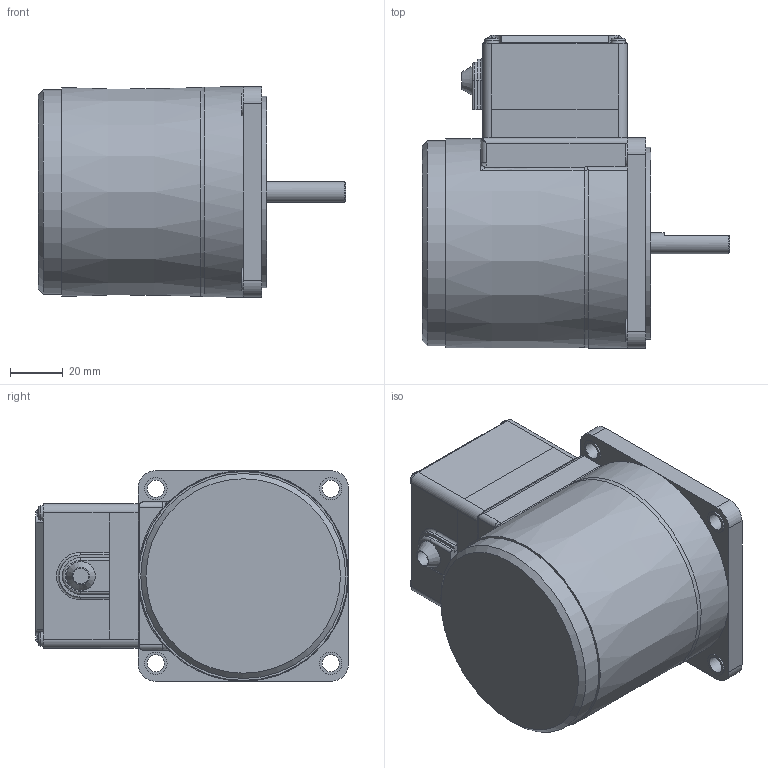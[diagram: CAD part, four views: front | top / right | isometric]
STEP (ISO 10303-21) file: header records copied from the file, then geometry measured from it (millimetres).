
FILE_DESCRIPTION(/* description */ (''),/* implementation_level */ '2;1');
FILE_NAME(/* name */ 'E:\도면작업\2016\0704) 미주향 SG 도면\3D MOTOR\TERMINAL BOX TYPE\INDUCTION TERMINAL BOX\SG8I25D_-T1.stp',/* time_stamp */ '2017-01-23T18:09:37+09:00',/* author */ ('jy-jung'),/* organization */ (''),/* preprocessor_version */ 'ST-DEVELOPER v15.6',/* originating_system */ 'Autodesk Inventor 2015',/* authorisation */ '');
FILE_SCHEMA (('AUTOMOTIVE_DESIGN { 1 0 10303 214 3 1 1 }'));
Length unit declared in the file: millimetre
Products named in the file (1): 부품4
Bounding box: 117 x 119 x 80 mm (x, y, z)
Volume: 556857.3 mm3; surface area: 46876.9 mm2
Topology: 1 solids, 2 shells, 259 faces, 672 edges, 429 vertices
Faces by surface type: plane 118, cylinder 54, cone 44, torus 24, bspline 15, sphere 4
Full cylindrical faces by diameter (mm): 6.5 x4, 8 x2, 8.5 x4, 34 x1, 73 x1, 78 x1
Entity records: 8649 total; most frequent: CARTESIAN_POINT 2359, ORIENTED_EDGE 1268, DIRECTION 1266, EDGE_CURVE 634, AXIS2_PLACEMENT_3D 494, VERTEX_POINT 422, EDGE_LOOP 310, LINE 278
